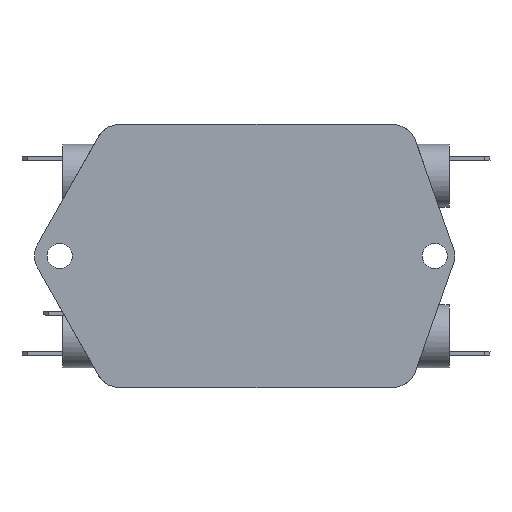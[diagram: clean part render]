
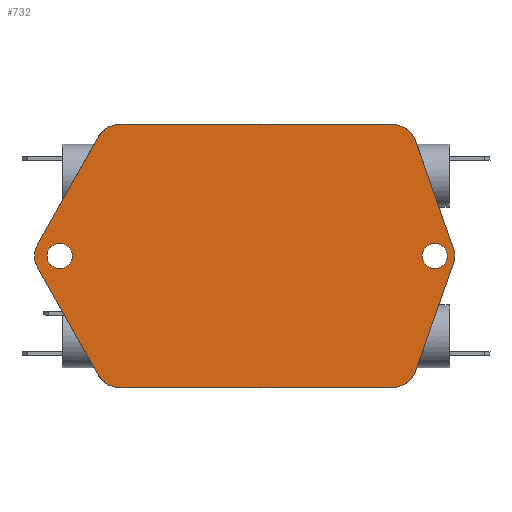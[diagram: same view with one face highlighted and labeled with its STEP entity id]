
A CAD part, front view. The second image highlights one B-rep face of the part: STEP entity #732.
In plain terms, the highlighted planar face has unit normal (0, -1, 0).
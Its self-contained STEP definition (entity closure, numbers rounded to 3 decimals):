
#546 = VERTEX_POINT ( 'NONE', #2509 ) ;
#586 = VERTEX_POINT ( 'NONE', #2581 ) ;
#588 = EDGE_CURVE ( 'NONE', #586, #601, #2579, .T. ) ;
#590 = EDGE_CURVE ( 'NONE', #615, #546, #2638, .T. ) ;
#601 = VERTEX_POINT ( 'NONE', #2614 ) ;
#604 = EDGE_CURVE ( 'NONE', #546, #618, #2613, .T. ) ;
#615 = VERTEX_POINT ( 'NONE', #2656 ) ;
#618 = VERTEX_POINT ( 'NONE', #2651 ) ;
#620 = EDGE_CURVE ( 'NONE', #618, #621, #2650, .T. ) ;
#621 = VERTEX_POINT ( 'NONE', #2645 ) ;
#637 = VERTEX_POINT ( 'NONE', #2730 ) ;
#639 = EDGE_CURVE ( 'NONE', #637, #654, #2729, .T. ) ;
#654 = VERTEX_POINT ( 'NONE', #2759 ) ;
#656 = EDGE_CURVE ( 'NONE', #654, #586, #2758, .T. ) ;
#658 = EDGE_CURVE ( 'NONE', #601, #615, #2754, .T. ) ;
#672 = VERTEX_POINT ( 'NONE', #2792 ) ;
#674 = EDGE_CURVE ( 'NONE', #672, #688, #2791, .T. ) ;
#688 = VERTEX_POINT ( 'NONE', #2764 ) ;
#690 = EDGE_CURVE ( 'NONE', #688, #701, #2826, .T. ) ;
#701 = VERTEX_POINT ( 'NONE', #2801 ) ;
#703 = EDGE_CURVE ( 'NONE', #701, #637, #2800, .T. ) ;
#717 = EDGE_LOOP ( 'NONE', ( #718, #719, #720, #721, #722, #723, #724, #725, #726, #727, #783, #784 ) ) ;
#718 = ORIENTED_EDGE ( 'NONE', *, *, #620, .F. ) ;
#719 = ORIENTED_EDGE ( 'NONE', *, *, #604, .F. ) ;
#720 = ORIENTED_EDGE ( 'NONE', *, *, #590, .F. ) ;
#721 = ORIENTED_EDGE ( 'NONE', *, *, #658, .F. ) ;
#722 = ORIENTED_EDGE ( 'NONE', *, *, #588, .F. ) ;
#723 = ORIENTED_EDGE ( 'NONE', *, *, #656, .F. ) ;
#724 = ORIENTED_EDGE ( 'NONE', *, *, #639, .F. ) ;
#725 = ORIENTED_EDGE ( 'NONE', *, *, #703, .F. ) ;
#726 = ORIENTED_EDGE ( 'NONE', *, *, #690, .F. ) ;
#727 = ORIENTED_EDGE ( 'NONE', *, *, #674, .F. ) ;
#728 = EDGE_CURVE ( 'NONE', #621, #742, #2843, .T. ) ;
#732 = ADVANCED_FACE ( 'NONE', ( #2835, #2834, #2833 ), #2832, .F. ) ;
#733 = EDGE_LOOP ( 'NONE', ( #734, #736 ) ) ;
#734 = ORIENTED_EDGE ( 'NONE', *, *, #735, .T. ) ;
#735 = EDGE_CURVE ( 'NONE', #3592, #3565, #2889, .T. ) ;
#736 = ORIENTED_EDGE ( 'NONE', *, *, #3571, .T. ) ;
#737 = EDGE_LOOP ( 'NONE', ( #738, #740 ) ) ;
#738 = ORIENTED_EDGE ( 'NONE', *, *, #739, .T. ) ;
#739 = EDGE_CURVE ( 'NONE', #3580, #3579, #2885, .T. ) ;
#740 = ORIENTED_EDGE ( 'NONE', *, *, #3590, .T. ) ;
#742 = VERTEX_POINT ( 'NONE', #2876 ) ;
#744 = EDGE_CURVE ( 'NONE', #742, #672, #2875, .T. ) ;
#783 = ORIENTED_EDGE ( 'NONE', *, *, #744, .F. ) ;
#784 = ORIENTED_EDGE ( 'NONE', *, *, #728, .F. ) ;
#2509 = CARTESIAN_POINT ( 'NONE',  ( 31.807, -0.6, 22.86 ) ) ;
#2575 = DIRECTION ( 'NONE',  ( 0., 0., -1. ) ) ;
#2576 = DIRECTION ( 'NONE',  ( 0., 1., 0. ) ) ;
#2577 = CARTESIAN_POINT ( 'NONE',  ( -27.091, -0.6, 21.2 ) ) ;
#2578 = AXIS2_PLACEMENT_3D ( 'NONE', #2577, #2576, #2575 ) ;
#2579 = CIRCLE ( 'NONE', #2578, 5. ) ;
#2580 = CARTESIAN_POINT ( 'NONE',  ( 27.091, -0.6, 21.2 ) ) ;
#2581 = CARTESIAN_POINT ( 'NONE',  ( -31.443, -0.6, 23.662 ) ) ;
#2610 = DIRECTION ( 'NONE',  ( 0.332, 0., -0.943 ) ) ;
#2611 = VECTOR ( 'NONE', #2610, 1000. ) ;
#2612 = CARTESIAN_POINT ( 'NONE',  ( 31.807, -0.6, 22.86 ) ) ;
#2613 = LINE ( 'NONE', #2612, #2611 ) ;
#2614 = CARTESIAN_POINT ( 'NONE',  ( -27.091, -0.6, 26.2 ) ) ;
#2635 = DIRECTION ( 'NONE',  ( 0., 0., 1. ) ) ;
#2636 = DIRECTION ( 'NONE',  ( 0., 1., 0. ) ) ;
#2637 = AXIS2_PLACEMENT_3D ( 'NONE', #2580, #2636, #2635 ) ;
#2638 = CIRCLE ( 'NONE', #2637, 5. ) ;
#2645 = CARTESIAN_POINT ( 'NONE',  ( 39.388, -0.6, -1.328 ) ) ;
#2646 = DIRECTION ( 'NONE',  ( 0., 0., 1. ) ) ;
#2647 = DIRECTION ( 'NONE',  ( 0., 1., 0. ) ) ;
#2648 = CARTESIAN_POINT ( 'NONE',  ( 35.614, -0.6, 0. ) ) ;
#2649 = AXIS2_PLACEMENT_3D ( 'NONE', #2648, #2647, #2646 ) ;
#2650 = CIRCLE ( 'NONE', #2649, 4. ) ;
#2651 = CARTESIAN_POINT ( 'NONE',  ( 39.388, -0.6, 1.328 ) ) ;
#2656 = CARTESIAN_POINT ( 'NONE',  ( 27.091, -0.6, 26.2 ) ) ;
#2725 = DIRECTION ( 'NONE',  ( 0., 0., -1. ) ) ;
#2726 = DIRECTION ( 'NONE',  ( 0., 1., 0. ) ) ;
#2727 = CARTESIAN_POINT ( 'NONE',  ( -39.086, -0.6, 0. ) ) ;
#2728 = AXIS2_PLACEMENT_3D ( 'NONE', #2727, #2726, #2725 ) ;
#2729 = CIRCLE ( 'NONE', #2728, 5. ) ;
#2730 = CARTESIAN_POINT ( 'NONE',  ( -43.437, -0.6, -2.462 ) ) ;
#2751 = DIRECTION ( 'NONE',  ( 1., 0., 0. ) ) ;
#2752 = VECTOR ( 'NONE', #2751, 1000. ) ;
#2753 = CARTESIAN_POINT ( 'NONE',  ( -27.091, -0.6, 26.2 ) ) ;
#2754 = LINE ( 'NONE', #2753, #2752 ) ;
#2755 = DIRECTION ( 'NONE',  ( 0.492, 0., 0.87 ) ) ;
#2756 = VECTOR ( 'NONE', #2755, 1000. ) ;
#2757 = CARTESIAN_POINT ( 'NONE',  ( -43.437, -0.6, 2.462 ) ) ;
#2758 = LINE ( 'NONE', #2757, #2756 ) ;
#2759 = CARTESIAN_POINT ( 'NONE',  ( -43.437, -0.6, 2.462 ) ) ;
#2764 = CARTESIAN_POINT ( 'NONE',  ( -27.091, -0.6, -26.2 ) ) ;
#2788 = DIRECTION ( 'NONE',  ( -1., 0., 0. ) ) ;
#2789 = VECTOR ( 'NONE', #2788, 1000. ) ;
#2790 = CARTESIAN_POINT ( 'NONE',  ( 27.091, -0.6, -26.2 ) ) ;
#2791 = LINE ( 'NONE', #2790, #2789 ) ;
#2792 = CARTESIAN_POINT ( 'NONE',  ( 27.091, -0.6, -26.2 ) ) ;
#2797 = DIRECTION ( 'NONE',  ( -0.492, 0., 0.87 ) ) ;
#2798 = VECTOR ( 'NONE', #2797, 1000. ) ;
#2799 = CARTESIAN_POINT ( 'NONE',  ( -31.443, -0.6, -23.662 ) ) ;
#2800 = LINE ( 'NONE', #2799, #2798 ) ;
#2801 = CARTESIAN_POINT ( 'NONE',  ( -31.443, -0.6, -23.662 ) ) ;
#2822 = DIRECTION ( 'NONE',  ( 0., 0., 1. ) ) ;
#2823 = DIRECTION ( 'NONE',  ( 0., 1., 0. ) ) ;
#2824 = CARTESIAN_POINT ( 'NONE',  ( -27.091, -0.6, -21.2 ) ) ;
#2825 = AXIS2_PLACEMENT_3D ( 'NONE', #2824, #2823, #2822 ) ;
#2826 = CIRCLE ( 'NONE', #2825, 5. ) ;
#2827 = DIRECTION ( 'NONE',  ( 0., 0., 1. ) ) ;
#2828 = DIRECTION ( 'NONE',  ( 0., 1., 0. ) ) ;
#2829 = AXIS2_PLACEMENT_3D ( 'NONE', #2831, #2828, #2827 ) ;
#2830 = CARTESIAN_POINT ( 'NONE',  ( 35.614, -0.6, 0. ) ) ;
#2831 = CARTESIAN_POINT ( 'NONE',  ( 35.614, -0.6, 0. ) ) ;
#2832 = PLANE ( 'NONE',  #2829 ) ;
#2833 = FACE_OUTER_BOUND ( 'NONE', #717, .T. ) ;
#2834 = FACE_BOUND ( 'NONE', #737, .T. ) ;
#2835 = FACE_BOUND ( 'NONE', #733, .T. ) ;
#2840 = DIRECTION ( 'NONE',  ( -0.332, 0., -0.943 ) ) ;
#2841 = VECTOR ( 'NONE', #2840, 1000. ) ;
#2842 = CARTESIAN_POINT ( 'NONE',  ( 39.388, -0.6, -1.328 ) ) ;
#2843 = LINE ( 'NONE', #2842, #2841 ) ;
#2871 = DIRECTION ( 'NONE',  ( 0., 0., -1. ) ) ;
#2872 = DIRECTION ( 'NONE',  ( 0., 1., 0. ) ) ;
#2873 = CARTESIAN_POINT ( 'NONE',  ( 27.091, -0.6, -21.2 ) ) ;
#2874 = AXIS2_PLACEMENT_3D ( 'NONE', #2873, #2872, #2871 ) ;
#2875 = CIRCLE ( 'NONE', #2874, 5. ) ;
#2876 = CARTESIAN_POINT ( 'NONE',  ( 31.807, -0.6, -22.86 ) ) ;
#2881 = DIRECTION ( 'NONE',  ( 0., 0., 1. ) ) ;
#2882 = DIRECTION ( 'NONE',  ( 0., 1., 0. ) ) ;
#2883 = CARTESIAN_POINT ( 'NONE',  ( -39.086, -0.6, 0. ) ) ;
#2884 = AXIS2_PLACEMENT_3D ( 'NONE', #2883, #2882, #2881 ) ;
#2885 = CIRCLE ( 'NONE', #2884, 2.5 ) ;
#2886 = DIRECTION ( 'NONE',  ( 0., 0., 1. ) ) ;
#2887 = DIRECTION ( 'NONE',  ( 0., 1., 0. ) ) ;
#2888 = AXIS2_PLACEMENT_3D ( 'NONE', #2830, #2887, #2886 ) ;
#2889 = CIRCLE ( 'NONE', #2888, 2.5 ) ;
#3565 = VERTEX_POINT ( 'NONE', #4901 ) ;
#3571 = EDGE_CURVE ( 'NONE', #3565, #3592, #4956, .T. ) ;
#3579 = VERTEX_POINT ( 'NONE', #4939 ) ;
#3580 = VERTEX_POINT ( 'NONE', #4938 ) ;
#3590 = EDGE_CURVE ( 'NONE', #3579, #3580, #4982, .T. ) ;
#3592 = VERTEX_POINT ( 'NONE', #4976 ) ;
#4901 = CARTESIAN_POINT ( 'NONE',  ( 35.614, -0.6, -2.5 ) ) ;
#4938 = CARTESIAN_POINT ( 'NONE',  ( -39.086, -0.6, 2.5 ) ) ;
#4939 = CARTESIAN_POINT ( 'NONE',  ( -39.086, -0.6, -2.5 ) ) ;
#4952 = DIRECTION ( 'NONE',  ( 0., 0., 1. ) ) ;
#4953 = DIRECTION ( 'NONE',  ( 0., 1., 0. ) ) ;
#4954 = CARTESIAN_POINT ( 'NONE',  ( 35.614, -0.6, 0. ) ) ;
#4955 = AXIS2_PLACEMENT_3D ( 'NONE', #4954, #4953, #4952 ) ;
#4956 = CIRCLE ( 'NONE', #4955, 2.5 ) ;
#4976 = CARTESIAN_POINT ( 'NONE',  ( 35.614, -0.6, 2.5 ) ) ;
#4979 = DIRECTION ( 'NONE',  ( 0., 0., 1. ) ) ;
#4980 = DIRECTION ( 'NONE',  ( 0., 1., 0. ) ) ;
#4981 = AXIS2_PLACEMENT_3D ( 'NONE', #4988, #4980, #4979 ) ;
#4982 = CIRCLE ( 'NONE', #4981, 2.5 ) ;
#4988 = CARTESIAN_POINT ( 'NONE',  ( -39.086, -0.6, 0. ) ) ;
